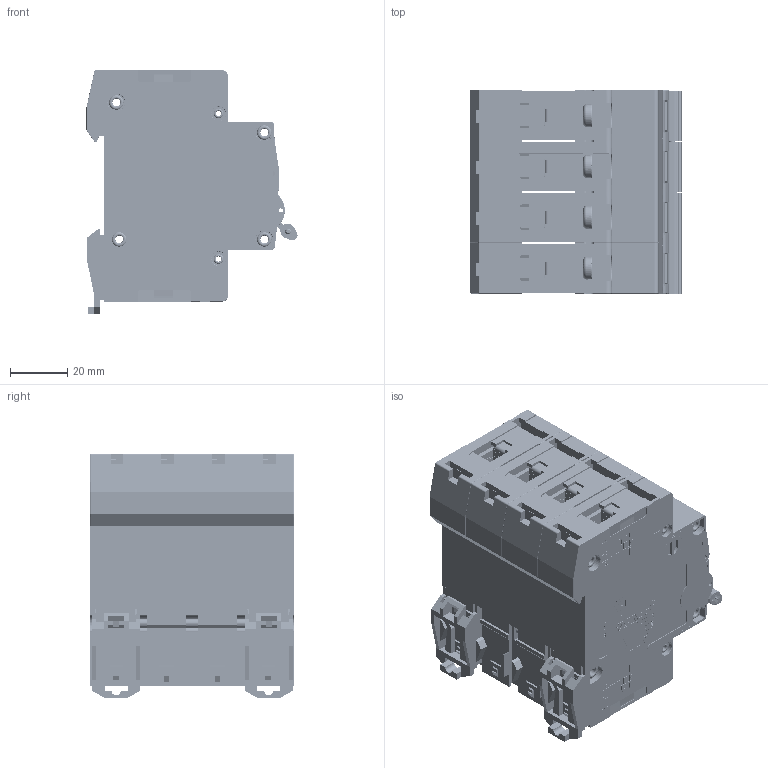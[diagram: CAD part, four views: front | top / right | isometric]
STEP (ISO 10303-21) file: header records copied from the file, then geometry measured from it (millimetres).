
FILE_DESCRIPTION (( 'STEP AP214' ), '1' );
FILE_NAME ('TDZ-4C-10.STEP', '2026-04-30T13:17:56', ( '' ), ( '' ), 'SwSTEP 2.0', 'SolidWorks 2025', '' );
FILE_SCHEMA (( 'AUTOMOTIVE_DESIGN' ));
Length unit declared in the file: millimetre
Products named in the file (1): TDZ-4C-10
Bounding box: 73.85 x 71.2 x 85.3 mm (x, y, z)
Volume: 118554.1 mm3; surface area: 187896.2 mm2
Topology: 56 solids, 56 shells, 15654 faces, 44138 edges, 29286 vertices
Faces by surface type: plane 9849, cylinder 3613, bspline 1650, torus 356, cone 186
Entity records: 791617 total; most frequent: CARTESIAN_POINT 230831, ORIENTED_EDGE 88180, DIRECTION 73910, EDGE_CURVE 44090, VECTOR 31026, LINE 31026, VERTEX_POINT 29286, AXIS2_PLACEMENT_3D 21442
